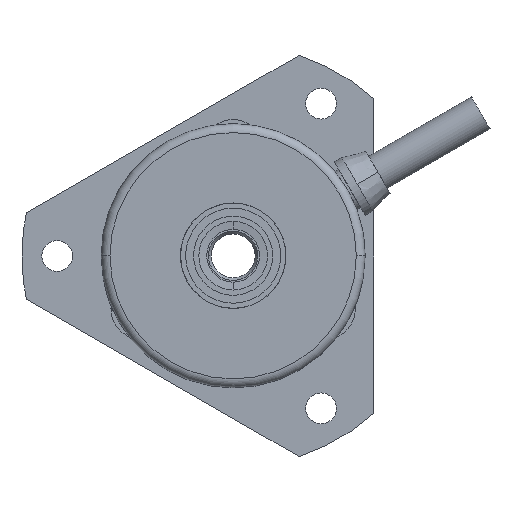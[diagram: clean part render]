
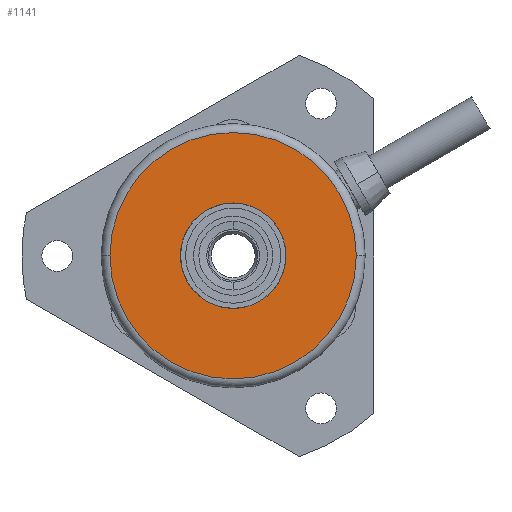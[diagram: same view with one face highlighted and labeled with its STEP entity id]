
A CAD part, top view. The second image highlights one B-rep face of the part: STEP entity #1141.
In plain terms, the highlighted planar face has unit normal (0, 0, 1).
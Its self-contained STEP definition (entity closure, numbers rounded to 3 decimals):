
#1141=ADVANCED_FACE('',(#1764,#1765),#1766,.T.);
#1764=FACE_OUTER_BOUND('',#2506,.T.);
#1765=FACE_BOUND('',#2507,.T.);
#1766=PLANE('',#2508);
#2506=EDGE_LOOP('',(#4620,#4621));
#2507=EDGE_LOOP('',(#4622,#4623));
#2508=AXIS2_PLACEMENT_3D('',#4624,#4625,#4626);
#4620=ORIENTED_EDGE('',*,*,#5840,.T.);
#4621=ORIENTED_EDGE('',*,*,#5914,.T.);
#4622=ORIENTED_EDGE('',*,*,#5832,.T.);
#4623=ORIENTED_EDGE('',*,*,#5917,.T.);
#4624=CARTESIAN_POINT('',(0.0,0.0,16.5));
#4625=DIRECTION('',(0.0,0.0,1.0));
#4626=DIRECTION('',(1.0,0.0,0.0));
#5832=EDGE_CURVE('',#6938,#6942,#6944,.T.);
#5840=EDGE_CURVE('',#6954,#6958,#6960,.T.);
#5914=EDGE_CURVE('',#6958,#6954,#7079,.T.);
#5917=EDGE_CURVE('',#6942,#6938,#7082,.T.);
#6938=VERTEX_POINT('',#8846);
#6942=VERTEX_POINT('',#8851);
#6944=CIRCLE('',#8854,6.0);
#6954=VERTEX_POINT('',#8866);
#6958=VERTEX_POINT('',#8870);
#6960=CIRCLE('',#8872,14.0);
#7079=CIRCLE('',#9290,14.0);
#7082=CIRCLE('',#9293,6.0);
#8846=CARTESIAN_POINT('',(6.0,0.0,16.5));
#8851=CARTESIAN_POINT('',(-6.0,0.,16.5));
#8854=AXIS2_PLACEMENT_3D('',#10640,#10641,#10642);
#8866=CARTESIAN_POINT('',(14.0,0.0,16.5));
#8870=CARTESIAN_POINT('',(-14.0,0.,16.5));
#8872=AXIS2_PLACEMENT_3D('',#10660,#10661,#10662);
#9290=AXIS2_PLACEMENT_3D('',#10769,#10770,#10771);
#9293=AXIS2_PLACEMENT_3D('',#10778,#10779,#10780);
#10640=CARTESIAN_POINT('',(0.0,0.0,16.5));
#10641=DIRECTION('',(0.0,0.0,-1.0));
#10642=DIRECTION('',(1.0,0.0,0.0));
#10660=CARTESIAN_POINT('',(0.0,0.0,16.5));
#10661=DIRECTION('',(0.0,0.0,1.0));
#10662=DIRECTION('',(1.0,0.0,0.0));
#10769=CARTESIAN_POINT('',(0.0,0.0,16.5));
#10770=DIRECTION('',(0.0,0.0,1.0));
#10771=DIRECTION('',(1.0,0.0,0.0));
#10778=CARTESIAN_POINT('',(0.0,0.0,16.5));
#10779=DIRECTION('',(0.0,0.0,-1.0));
#10780=DIRECTION('',(1.0,0.0,0.0));
